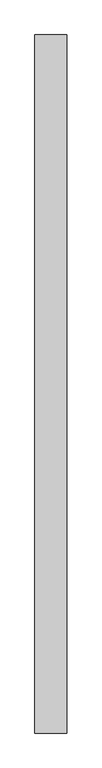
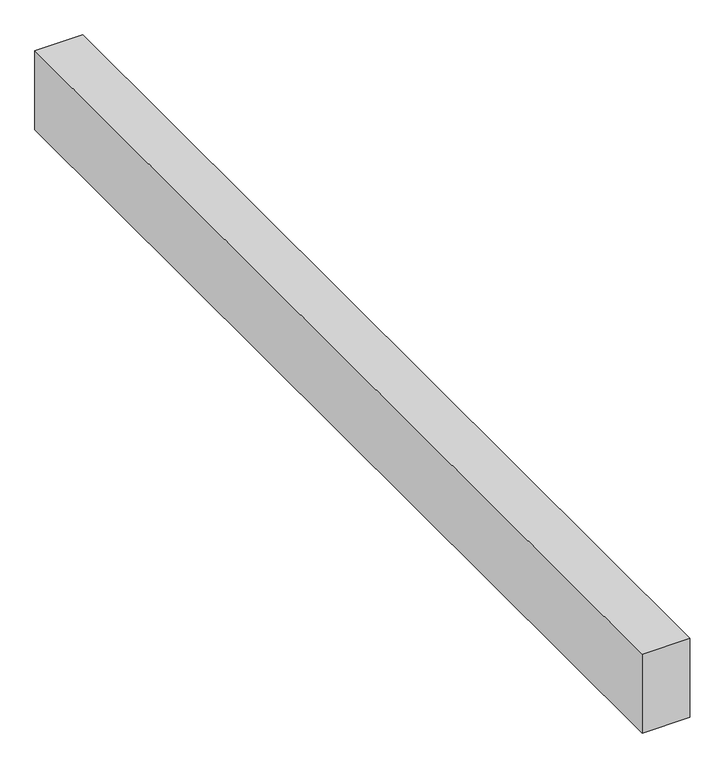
"""IFC4 building model written with IfcOpenShell, lengths in millimetres: proxy geometry."""

from ifc_helpers import new_model, si_unit, frame, origin, place, context, project, spatial, polyline, outline, extrude, source, transform, mapped, element, save


def structural_framing_5a2c5dd1(model_context):
    return source(origin(), model_context, "Body", "SweptSolid", [
        extrude(outline(polyline([(100.0, -2201.3), (-100.0, -2201.3), (-100.0, 2201.3), (100.0, 2201.3), (100.0, -2201.3)])), frame((0.0, 0.0, -350.0), z_axis=(0.0, 0.0, 1.0), x_axis=(1.0, 0.0, 0.0)), (0.0, 0.0, 1.0), 350.0),
    ])


if __name__ == "__main__":
    model = new_model("IFC4")
    model_context = context("Model", 3, world=origin())
    ifc_project = project(units=[si_unit("LENGTHUNIT", "METRE", prefix="MILLI")], contexts=[model_context])
    site = spatial("IfcSite", under=ifc_project)
    building = spatial("IfcBuilding", under=site)
    placement = place(None, origin())
    structural_framing_shape = structural_framing_5a2c5dd1(model_context)
    element("IfcBuildingElementProxy", 1, Name="Structural Framing", at=placement, inside=building, context=model_context, shape_type="MappedRepresentation", body=[
        mapped(structural_framing_shape, transform((0.0, 0.0, 0.0), x_axis=(1.0, 0.0, 0.0), y_axis=(0.0, 1.0, 0.0), z_axis=(0.0, 0.0, 1.0))),
    ])
    save(model, "model.ifc")
